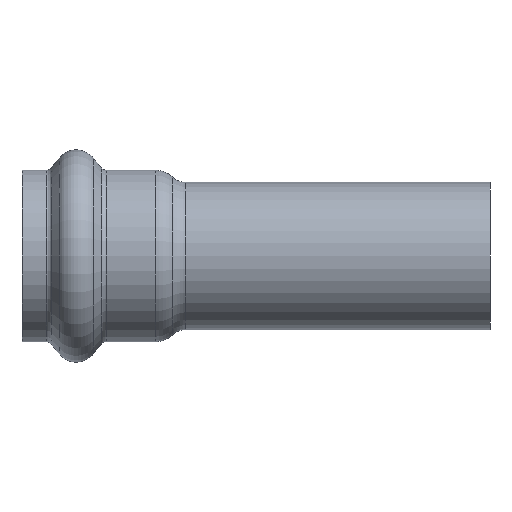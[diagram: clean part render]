
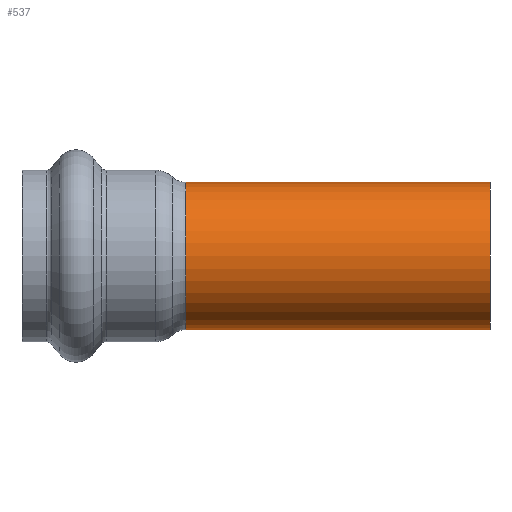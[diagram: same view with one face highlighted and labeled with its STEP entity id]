
A CAD part, front view. The second image highlights one B-rep face of the part: STEP entity #537.
In plain terms, the highlighted cylindrical face has radius 16.701 mm (diameter 33.401 mm), a full revolution.
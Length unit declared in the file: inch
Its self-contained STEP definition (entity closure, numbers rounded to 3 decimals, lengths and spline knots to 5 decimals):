
#50=CYLINDRICAL_SURFACE('',#610,0.6575);
#58=LINE('',#972,#68);
#68=VECTOR('',#765,0.6575);
#87=FACE_OUTER_BOUND('',#109,.T.);
#109=EDGE_LOOP('',(#397,#398,#399,#400,#401,#402,#403));
#153=CIRCLE('',#607,0.6575);
#154=CIRCLE('',#608,0.6575);
#155=CIRCLE('',#609,0.6575);
#156=CIRCLE('',#611,0.6575);
#157=CIRCLE('',#612,0.6575);
#218=VERTEX_POINT('',#960);
#219=VERTEX_POINT('',#962);
#220=VERTEX_POINT('',#964);
#221=VERTEX_POINT('',#968);
#222=VERTEX_POINT('',#969);
#286=EDGE_CURVE('',#219,#218,#153,.T.);
#287=EDGE_CURVE('',#220,#219,#154,.T.);
#288=EDGE_CURVE('',#218,#220,#155,.T.);
#289=EDGE_CURVE('',#221,#222,#156,.T.);
#290=EDGE_CURVE('',#222,#221,#157,.T.);
#291=EDGE_CURVE('',#222,#220,#58,.T.);
#397=ORIENTED_EDGE('',*,*,#289,.F.);
#398=ORIENTED_EDGE('',*,*,#290,.F.);
#399=ORIENTED_EDGE('',*,*,#291,.T.);
#400=ORIENTED_EDGE('',*,*,#287,.T.);
#401=ORIENTED_EDGE('',*,*,#286,.T.);
#402=ORIENTED_EDGE('',*,*,#288,.T.);
#403=ORIENTED_EDGE('',*,*,#291,.F.);
#537=ADVANCED_FACE('',(#87),#50,.T.);
#607=AXIS2_PLACEMENT_3D('',#963,#753,#754);
#608=AXIS2_PLACEMENT_3D('',#965,#755,#756);
#609=AXIS2_PLACEMENT_3D('',#966,#757,#758);
#610=AXIS2_PLACEMENT_3D('',#967,#759,#760);
#611=AXIS2_PLACEMENT_3D('',#970,#761,#762);
#612=AXIS2_PLACEMENT_3D('',#971,#763,#764);
#753=DIRECTION('center_axis',(1.,0.,0.));
#754=DIRECTION('ref_axis',(0.,1.,0.));
#755=DIRECTION('center_axis',(1.,0.,0.));
#756=DIRECTION('ref_axis',(0.,1.,0.));
#757=DIRECTION('center_axis',(1.,0.,0.));
#758=DIRECTION('ref_axis',(0.,1.,0.));
#759=DIRECTION('center_axis',(1.,0.,0.));
#760=DIRECTION('ref_axis',(0.,1.,0.));
#761=DIRECTION('center_axis',(1.,0.,0.));
#762=DIRECTION('ref_axis',(0.,1.,0.));
#763=DIRECTION('center_axis',(1.,0.,0.));
#764=DIRECTION('ref_axis',(0.,1.,0.));
#765=DIRECTION('',(-1.,0.,0.));
#960=CARTESIAN_POINT('',(-0.62635,0.,0.6575));
#962=CARTESIAN_POINT('',(-0.62635,0.6575,0.));
#963=CARTESIAN_POINT('Origin',(-0.62635,0.,
0.));
#964=CARTESIAN_POINT('',(-0.62635,-0.6575,0.));
#965=CARTESIAN_POINT('Origin',(-0.62635,0.,
0.));
#966=CARTESIAN_POINT('Origin',(-0.62635,0.,
0.));
#967=CARTESIAN_POINT('Origin',(0.73182,0.,
0.));
#968=CARTESIAN_POINT('',(2.09,0.6575,0.));
#969=CARTESIAN_POINT('',(2.09,-0.6575,0.));
#970=CARTESIAN_POINT('Origin',(2.09,0.,0.));
#971=CARTESIAN_POINT('Origin',(2.09,0.,0.));
#972=CARTESIAN_POINT('',(0.73182,-0.6575,0.));
